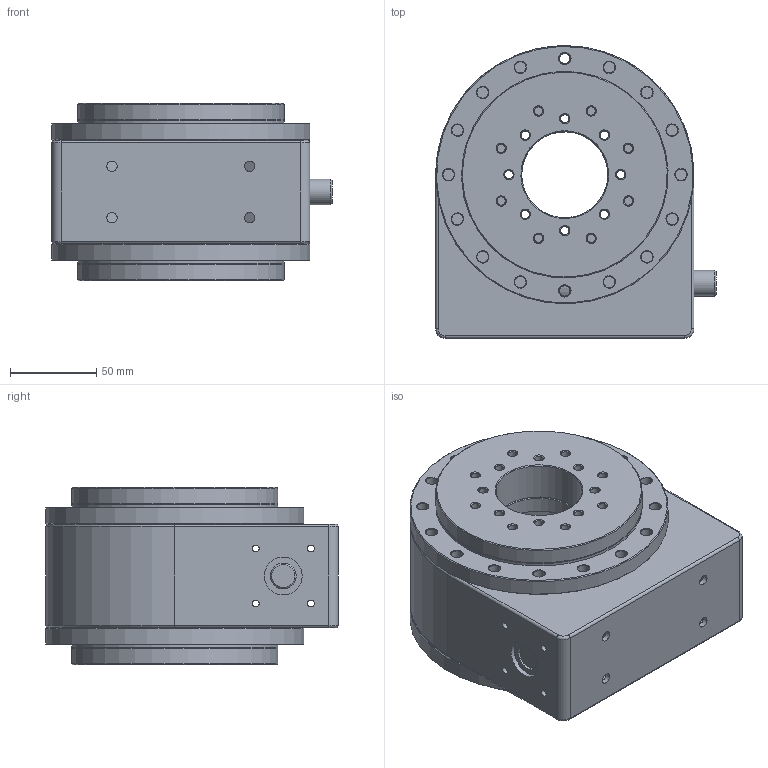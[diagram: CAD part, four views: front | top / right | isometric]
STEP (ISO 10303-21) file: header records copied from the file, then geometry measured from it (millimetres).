
FILE_DESCRIPTION((''),'2;1');
FILE_NAME('I:\Gleitlager\Konstruktion\robolink\Vorserie\RL-D\RL-D-50\RL-D-50-1xx\Simpel\# RL-D-50-101-48-00033.stp','2015-02-27T16:36:46',('FBerger'),(''),'Autodesk Inventor 2013','Autodesk Inventor 2013','');
FILE_SCHEMA(('CONFIG_CONTROL_DESIGN'));
Length unit declared in the file: millimetre
Products named in the file (8): # RL-D-50-101-48-00033; RL-D-50-0XXXX; RL-D-50-X0XXX; PRT-01-50; 11; 9; 10; 1
Assembly tree (15 placements, depth 3):
  # RL-D-50-101-48-00033
    RL-D-50-0XXXX
    RL-D-50-X0XXX
    PRT-01-50  x2
      11
      9
      10
      1
Bounding box: 163 x 170 x 103 mm (x, y, z)
Volume: 916765.3 mm3; surface area: 355540.3 mm2
Topology: 24 solids, 24 shells, 879 faces, 1857 edges, 1138 vertices
Faces by surface type: cone 362, plane 262, cylinder 229, torus 26
Full cylindrical faces by diameter (mm): 4 x8, 4.92 x32, 6 x32, 6.6 x64, 10 x16, 11 x32, 15 x4, 22 x2, 28 x2, 30 x1, 50 x4, 90 x4, 93 x4, 120 x8, 122 x2, 150 x2
Entity records: 8346 total; most frequent: DIRECTION 1558, CARTESIAN_POINT 1239, ORIENTED_EDGE 902, AXIS2_PLACEMENT_3D 752, EDGE_LOOP 752, EDGE_CURVE 451, VERTEX_POINT 415, FACE_BOUND 414
